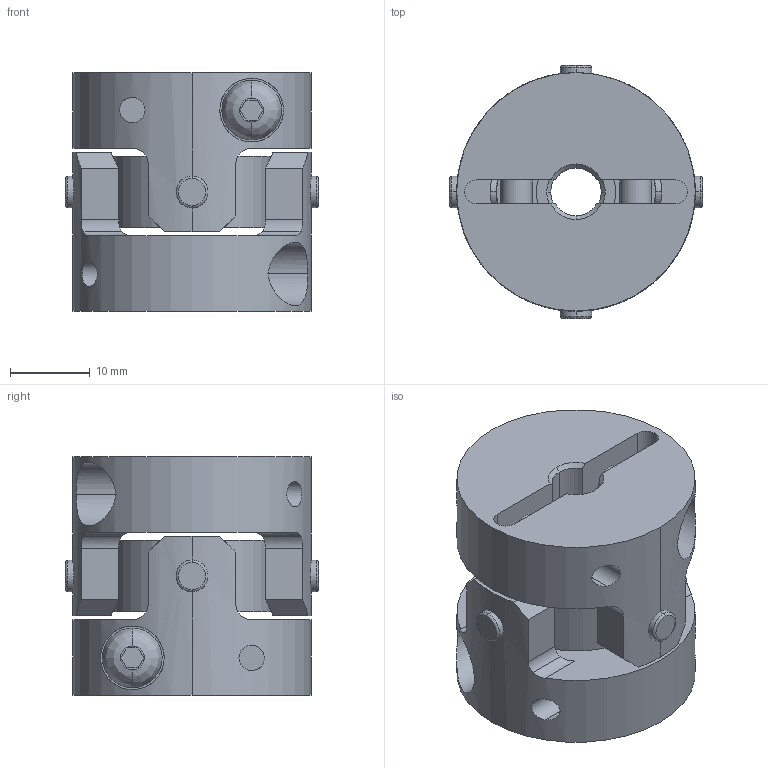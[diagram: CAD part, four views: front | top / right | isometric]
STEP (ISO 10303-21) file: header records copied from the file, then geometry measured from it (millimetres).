
FILE_DESCRIPTION((''),'2;1');
FILE_NAME('UA-30C-6×6.35.stp','2013-11-12T14:33:49',(''),(''),'AutoCAD STEP 2000i','AutoCAD 2000i',', , ');
FILE_SCHEMA(('CONFIG_CONTROL_DESIGN'));
Length unit declared in the file: millimetre
Products named in the file (6): UA-30C-6×6; 忣兜1; UA-3002-D06-1; BTN-M4; UA-3002-D06; UA30-SEN
Assembly tree (6 placements, depth 3):
  UA-30C-6×6
    忣兜1
    UA-3002-D06-1
      BTN-M4
    UA-3002-D06
      BTN-M4
    UA30-SEN
Bounding box: 31.82 x 31.82 x 30 mm (x, y, z)
Volume: 14974.6 mm3; surface area: 8918 mm2
Topology: 1 solids, 1 shells, 206 faces, 554 edges, 364 vertices
Faces by surface type: cylinder 96, plane 78, cone 16, bspline 8, torus 8
Entity records: 8479 total; most frequent: CARTESIAN_POINT 3163, ORIENTED_EDGE 1108, DIRECTION 1064, EDGE_CURVE 554, AXIS2_PLACEMENT_3D 409, VERTEX_POINT 364, VECTOR 246, LINE 246
